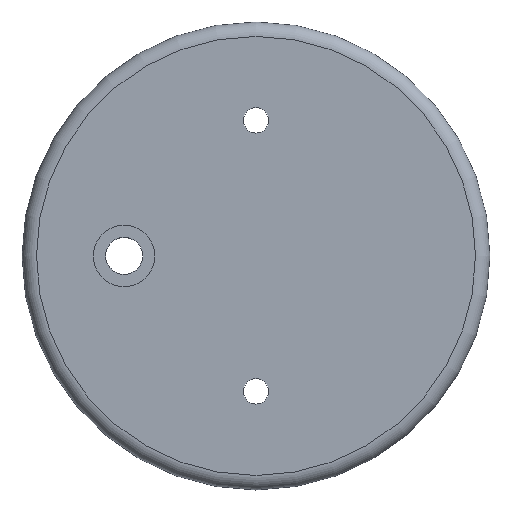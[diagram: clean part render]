
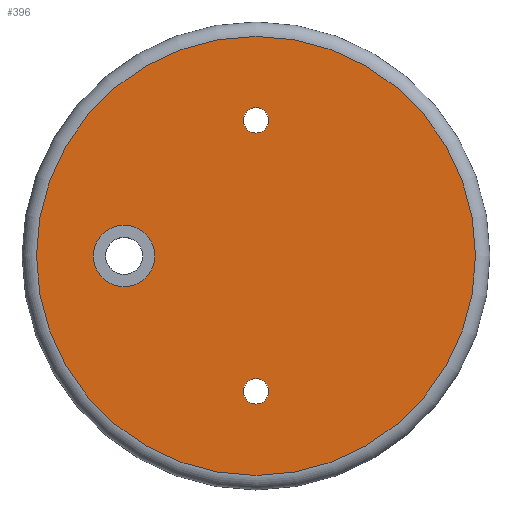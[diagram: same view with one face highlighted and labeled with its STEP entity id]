
A CAD part, top view. The second image highlights one B-rep face of the part: STEP entity #396.
In plain terms, the highlighted planar face has unit normal (0, 0, 1).
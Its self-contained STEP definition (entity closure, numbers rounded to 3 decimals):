
#74 = CYLINDRICAL_SURFACE('',#75,7.);
#75 = AXIS2_PLACEMENT_3D('',#76,#77,#78);
#76 = CARTESIAN_POINT('',(0.,-75.,-4.));
#77 = DIRECTION('',(0.,0.,1.));
#78 = DIRECTION('',(1.,0.,-0.));
#136 = CYLINDRICAL_SURFACE('',#137,7.);
#137 = AXIS2_PLACEMENT_3D('',#138,#139,#140);
#138 = CARTESIAN_POINT('',(0.,75.,-4.));
#139 = DIRECTION('',(0.,0.,1.));
#140 = DIRECTION('',(1.,0.,-0.));
#206 = EDGE_CURVE('',#207,#207,#209,.T.);
#207 = VERTEX_POINT('',#208);
#208 = CARTESIAN_POINT('',(7.,-75.,0.));
#209 = SURFACE_CURVE('',#210,(#215,#222),.PCURVE_S1.);
#210 = CIRCLE('',#211,7.);
#211 = AXIS2_PLACEMENT_3D('',#212,#213,#214);
#212 = CARTESIAN_POINT('',(0.,-75.,0.));
#213 = DIRECTION('',(0.,0.,1.));
#214 = DIRECTION('',(1.,0.,-0.));
#215 = PCURVE('',#74,#216);
#216 = DEFINITIONAL_REPRESENTATION('',(#217),#221);
#217 = LINE('',#218,#219);
#218 = CARTESIAN_POINT('',(0.,4.));
#219 = VECTOR('',#220,1.);
#220 = DIRECTION('',(1.,0.));
#221 = ( GEOMETRIC_REPRESENTATION_CONTEXT(2) 
PARAMETRIC_REPRESENTATION_CONTEXT() REPRESENTATION_CONTEXT('2D SPACE',''
  ) );
#222 = PCURVE('',#223,#228);
#223 = PLANE('',#224);
#224 = AXIS2_PLACEMENT_3D('',#225,#226,#227);
#225 = CARTESIAN_POINT('',(0.,0.,0.));
#226 = DIRECTION('',(0.,0.,1.));
#227 = DIRECTION('',(1.,0.,-0.));
#228 = DEFINITIONAL_REPRESENTATION('',(#229),#233);
#229 = CIRCLE('',#230,7.);
#230 = AXIS2_PLACEMENT_2D('',#231,#232);
#231 = CARTESIAN_POINT('',(0.,-75.));
#232 = DIRECTION('',(1.,0.));
#233 = ( GEOMETRIC_REPRESENTATION_CONTEXT(2) 
PARAMETRIC_REPRESENTATION_CONTEXT() REPRESENTATION_CONTEXT('2D SPACE',''
  ) );
#315 = EDGE_CURVE('',#316,#316,#318,.T.);
#316 = VERTEX_POINT('',#317);
#317 = CARTESIAN_POINT('',(7.,75.,0.));
#318 = SURFACE_CURVE('',#319,(#324,#331),.PCURVE_S1.);
#319 = CIRCLE('',#320,7.);
#320 = AXIS2_PLACEMENT_3D('',#321,#322,#323);
#321 = CARTESIAN_POINT('',(0.,75.,0.));
#322 = DIRECTION('',(0.,0.,1.));
#323 = DIRECTION('',(1.,0.,-0.));
#324 = PCURVE('',#136,#325);
#325 = DEFINITIONAL_REPRESENTATION('',(#326),#330);
#326 = LINE('',#327,#328);
#327 = CARTESIAN_POINT('',(0.,4.));
#328 = VECTOR('',#329,1.);
#329 = DIRECTION('',(1.,0.));
#330 = ( GEOMETRIC_REPRESENTATION_CONTEXT(2) 
PARAMETRIC_REPRESENTATION_CONTEXT() REPRESENTATION_CONTEXT('2D SPACE',''
  ) );
#331 = PCURVE('',#223,#332);
#332 = DEFINITIONAL_REPRESENTATION('',(#333),#337);
#333 = CIRCLE('',#334,7.);
#334 = AXIS2_PLACEMENT_2D('',#335,#336);
#335 = CARTESIAN_POINT('',(0.,75.));
#336 = DIRECTION('',(1.,0.));
#337 = ( GEOMETRIC_REPRESENTATION_CONTEXT(2) 
PARAMETRIC_REPRESENTATION_CONTEXT() REPRESENTATION_CONTEXT('2D SPACE',''
  ) );
#396 = ADVANCED_FACE('',(#397,#428,#431,#462),#223,.T.);
#397 = FACE_BOUND('',#398,.T.);
#398 = EDGE_LOOP('',(#399));
#399 = ORIENTED_EDGE('',*,*,#400,.T.);
#400 = EDGE_CURVE('',#401,#401,#403,.T.);
#401 = VERTEX_POINT('',#402);
#402 = CARTESIAN_POINT('',(121.5,0.,0.));
#403 = SURFACE_CURVE('',#404,(#409,#416),.PCURVE_S1.);
#404 = CIRCLE('',#405,121.5);
#405 = AXIS2_PLACEMENT_3D('',#406,#407,#408);
#406 = CARTESIAN_POINT('',(0.,0.,0.));
#407 = DIRECTION('',(0.,0.,1.));
#408 = DIRECTION('',(1.,0.,-0.));
#409 = PCURVE('',#223,#410);
#410 = DEFINITIONAL_REPRESENTATION('',(#411),#415);
#411 = CIRCLE('',#412,121.5);
#412 = AXIS2_PLACEMENT_2D('',#413,#414);
#413 = CARTESIAN_POINT('',(0.,0.));
#414 = DIRECTION('',(1.,0.));
#415 = ( GEOMETRIC_REPRESENTATION_CONTEXT(2) 
PARAMETRIC_REPRESENTATION_CONTEXT() REPRESENTATION_CONTEXT('2D SPACE',''
  ) );
#416 = PCURVE('',#417,#422);
#417 = TOROIDAL_SURFACE('',#418,121.5,8.);
#418 = AXIS2_PLACEMENT_3D('',#419,#420,#421);
#419 = CARTESIAN_POINT('',(0.,0.,-8.));
#420 = DIRECTION('',(0.,0.,1.));
#421 = DIRECTION('',(1.,0.,-0.));
#422 = DEFINITIONAL_REPRESENTATION('',(#423),#427);
#423 = LINE('',#424,#425);
#424 = CARTESIAN_POINT('',(0.,1.571));
#425 = VECTOR('',#426,1.);
#426 = DIRECTION('',(1.,0.));
#427 = ( GEOMETRIC_REPRESENTATION_CONTEXT(2) 
PARAMETRIC_REPRESENTATION_CONTEXT() REPRESENTATION_CONTEXT('2D SPACE',''
  ) );
#428 = FACE_BOUND('',#429,.T.);
#429 = EDGE_LOOP('',(#430));
#430 = ORIENTED_EDGE('',*,*,#206,.F.);
#431 = FACE_BOUND('',#432,.T.);
#432 = EDGE_LOOP('',(#433));
#433 = ORIENTED_EDGE('',*,*,#434,.F.);
#434 = EDGE_CURVE('',#435,#435,#437,.T.);
#435 = VERTEX_POINT('',#436);
#436 = CARTESIAN_POINT('',(-56.,0.,0.));
#437 = SURFACE_CURVE('',#438,(#443,#450),.PCURVE_S1.);
#438 = CIRCLE('',#439,17.);
#439 = AXIS2_PLACEMENT_3D('',#440,#441,#442);
#440 = CARTESIAN_POINT('',(-73.,0.,0.));
#441 = DIRECTION('',(0.,0.,1.));
#442 = DIRECTION('',(1.,0.,-0.));
#443 = PCURVE('',#223,#444);
#444 = DEFINITIONAL_REPRESENTATION('',(#445),#449);
#445 = CIRCLE('',#446,17.);
#446 = AXIS2_PLACEMENT_2D('',#447,#448);
#447 = CARTESIAN_POINT('',(-73.,0.));
#448 = DIRECTION('',(1.,0.));
#449 = ( GEOMETRIC_REPRESENTATION_CONTEXT(2) 
PARAMETRIC_REPRESENTATION_CONTEXT() REPRESENTATION_CONTEXT('2D SPACE',''
  ) );
#450 = PCURVE('',#451,#456);
#451 = CYLINDRICAL_SURFACE('',#452,17.);
#452 = AXIS2_PLACEMENT_3D('',#453,#454,#455);
#453 = CARTESIAN_POINT('',(-73.,0.,-0.5));
#454 = DIRECTION('',(0.,0.,1.));
#455 = DIRECTION('',(1.,0.,-0.));
#456 = DEFINITIONAL_REPRESENTATION('',(#457),#461);
#457 = LINE('',#458,#459);
#458 = CARTESIAN_POINT('',(0.,0.5));
#459 = VECTOR('',#460,1.);
#460 = DIRECTION('',(1.,0.));
#461 = ( GEOMETRIC_REPRESENTATION_CONTEXT(2) 
PARAMETRIC_REPRESENTATION_CONTEXT() REPRESENTATION_CONTEXT('2D SPACE',''
  ) );
#462 = FACE_BOUND('',#463,.T.);
#463 = EDGE_LOOP('',(#464));
#464 = ORIENTED_EDGE('',*,*,#315,.F.);
